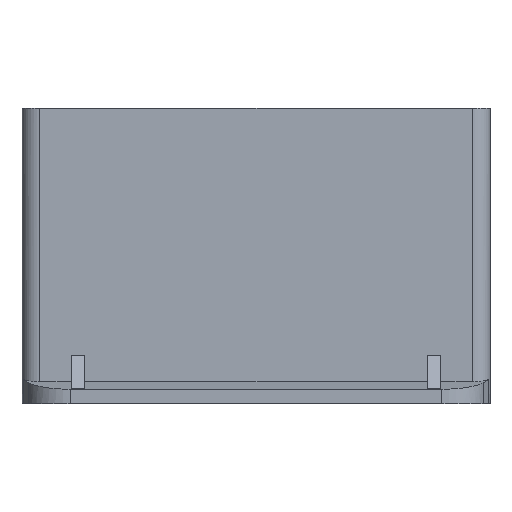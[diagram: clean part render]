
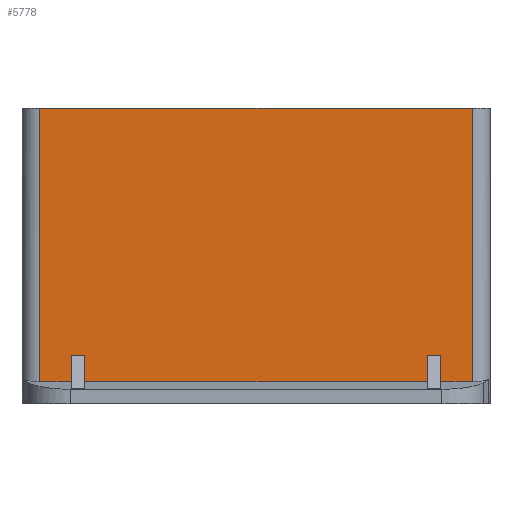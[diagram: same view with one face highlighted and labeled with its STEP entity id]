
A CAD part, front view. The second image highlights one B-rep face of the part: STEP entity #5778.
In plain terms, the highlighted planar face has unit normal (0, -1, 0).
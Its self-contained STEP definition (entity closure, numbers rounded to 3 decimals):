
#34 = CARTESIAN_POINT ( 'NONE',  ( -1.1, -7.6, -18.6 ) ) ;
#102 = VECTOR ( 'NONE', #3552, 1000. ) ;
#106 = ORIENTED_EDGE ( 'NONE', *, *, #4845, .T. ) ;
#255 = DIRECTION ( 'NONE',  ( -1., 0., 0. ) ) ;
#378 = VECTOR ( 'NONE', #5564, 1000. ) ;
#435 = DIRECTION ( 'NONE',  ( 0., 0., -1. ) ) ;
#547 = ORIENTED_EDGE ( 'NONE', *, *, #746, .T. ) ;
#680 = LINE ( 'NONE', #7021, #4722 ) ;
#746 = EDGE_CURVE ( 'NONE', #5959, #3660, #4996, .T. ) ;
#766 = ORIENTED_EDGE ( 'NONE', *, *, #2788, .T. ) ;
#779 = DIRECTION ( 'NONE',  ( 0., 0., -1. ) ) ;
#810 = LINE ( 'NONE', #1203, #6954 ) ;
#812 = LINE ( 'NONE', #4437, #1394 ) ;
#855 = VECTOR ( 'NONE', #6012, 1000. ) ;
#888 = EDGE_CURVE ( 'NONE', #5275, #6322, #3996, .T. ) ;
#908 = ORIENTED_EDGE ( 'NONE', *, *, #2102, .T. ) ;
#1041 = EDGE_CURVE ( 'NONE', #6322, #2286, #680, .T. ) ;
#1073 = DIRECTION ( 'NONE',  ( 1., 0., 0. ) ) ;
#1203 = CARTESIAN_POINT ( 'NONE',  ( -2.3, -7.6, -18.6 ) ) ;
#1394 = VECTOR ( 'NONE', #1470, 1000. ) ;
#1470 = DIRECTION ( 'NONE',  ( 1., 0., 0. ) ) ;
#1509 = ORIENTED_EDGE ( 'NONE', *, *, #4090, .F. ) ;
#1811 = DIRECTION ( 'NONE',  ( 0., 0., -1. ) ) ;
#1815 = EDGE_CURVE ( 'NONE', #3881, #5959, #1835, .T. ) ;
#1835 = LINE ( 'NONE', #7632, #855 ) ;
#2102 = EDGE_CURVE ( 'NONE', #7543, #3881, #3926, .T. ) ;
#2286 = VERTEX_POINT ( 'NONE', #5982 ) ;
#2338 = VECTOR ( 'NONE', #1073, 1000. ) ;
#2596 = VECTOR ( 'NONE', #3900, 1000. ) ;
#2699 = AXIS2_PLACEMENT_3D ( 'NONE', #3389, #4029, #2806 ) ;
#2788 = EDGE_CURVE ( 'NONE', #5853, #6713, #5864, .T. ) ;
#2806 = DIRECTION ( 'NONE',  ( 1., 0., 0. ) ) ;
#2920 = PLANE ( 'NONE',  #2699 ) ;
#3092 = ORIENTED_EDGE ( 'NONE', *, *, #1041, .T. ) ;
#3166 = CARTESIAN_POINT ( 'NONE',  ( 1.05, -7.6, -16.8 ) ) ;
#3322 = CARTESIAN_POINT ( 'NONE',  ( 25.25, -7.6, -16.8 ) ) ;
#3389 = CARTESIAN_POINT ( 'NONE',  ( -2.3, -7.6, -20.1 ) ) ;
#3417 = ORIENTED_EDGE ( 'NONE', *, *, #7304, .F. ) ;
#3455 = ORIENTED_EDGE ( 'NONE', *, *, #4755, .T. ) ;
#3515 = CARTESIAN_POINT ( 'NONE',  ( 1.95, -7.6, -20.1 ) ) ;
#3552 = DIRECTION ( 'NONE',  ( 0., 0., 1. ) ) ;
#3608 = CARTESIAN_POINT ( 'NONE',  ( 28.3, -7.6, 0. ) ) ;
#3633 = CARTESIAN_POINT ( 'NONE',  ( -1.1, -7.6, 0. ) ) ;
#3660 = VERTEX_POINT ( 'NONE', #34 ) ;
#3730 = LINE ( 'NONE', #7388, #378 ) ;
#3809 = CARTESIAN_POINT ( 'NONE',  ( 28.3, -7.6, -18.6 ) ) ;
#3881 = VERTEX_POINT ( 'NONE', #3608 ) ;
#3882 = EDGE_CURVE ( 'NONE', #7543, #2286, #810, .T. ) ;
#3900 = DIRECTION ( 'NONE',  ( 0., 0., -1. ) ) ;
#3926 = LINE ( 'NONE', #5712, #102 ) ;
#3944 = ORIENTED_EDGE ( 'NONE', *, *, #3882, .F. ) ;
#3996 = LINE ( 'NONE', #3322, #2338 ) ;
#4018 = LINE ( 'NONE', #5923, #7699 ) ;
#4029 = DIRECTION ( 'NONE',  ( 0., -1., 0. ) ) ;
#4090 = EDGE_CURVE ( 'NONE', #5275, #5463, #4018, .T. ) ;
#4246 = VECTOR ( 'NONE', #6515, 1000. ) ;
#4298 = VERTEX_POINT ( 'NONE', #4798 ) ;
#4437 = CARTESIAN_POINT ( 'NONE',  ( 32.163, -7.6, -18.6 ) ) ;
#4722 = VECTOR ( 'NONE', #1811, 1000. ) ;
#4755 = EDGE_CURVE ( 'NONE', #7238, #5853, #3730, .T. ) ;
#4783 = EDGE_CURVE ( 'NONE', #6713, #5463, #812, .T. ) ;
#4798 = CARTESIAN_POINT ( 'NONE',  ( 1.05, -7.6, -18.6 ) ) ;
#4845 = EDGE_CURVE ( 'NONE', #3660, #4298, #5747, .T. ) ;
#4996 = LINE ( 'NONE', #5645, #5214 ) ;
#5214 = VECTOR ( 'NONE', #779, 1000. ) ;
#5224 = ORIENTED_EDGE ( 'NONE', *, *, #888, .T. ) ;
#5275 = VERTEX_POINT ( 'NONE', #5461 ) ;
#5349 = DIRECTION ( 'NONE',  ( 0., 0., -1. ) ) ;
#5395 = CARTESIAN_POINT ( 'NONE',  ( 26.15, -7.6, -16.8 ) ) ;
#5417 = CARTESIAN_POINT ( 'NONE',  ( 1.95, -7.6, -18.6 ) ) ;
#5461 = CARTESIAN_POINT ( 'NONE',  ( 25.25, -7.6, -16.8 ) ) ;
#5463 = VERTEX_POINT ( 'NONE', #5863 ) ;
#5564 = DIRECTION ( 'NONE',  ( 1., 0., 0. ) ) ;
#5645 = CARTESIAN_POINT ( 'NONE',  ( -1.1, -7.6, -20.1 ) ) ;
#5678 = EDGE_LOOP ( 'NONE', ( #1509, #5224, #3092, #3944, #908, #6829, #547, #106, #3417, #3455, #766, #6009 ) ) ;
#5712 = CARTESIAN_POINT ( 'NONE',  ( 28.3, -7.6, -20.1 ) ) ;
#5747 = LINE ( 'NONE', #6876, #4246 ) ;
#5778 = ADVANCED_FACE ( 'NONE', ( #7563 ), #2920, .T. ) ;
#5853 = VERTEX_POINT ( 'NONE', #7675 ) ;
#5863 = CARTESIAN_POINT ( 'NONE',  ( 25.25, -7.6, -18.6 ) ) ;
#5864 = LINE ( 'NONE', #3515, #2596 ) ;
#5923 = CARTESIAN_POINT ( 'NONE',  ( 25.25, -7.6, -19.339 ) ) ;
#5959 = VERTEX_POINT ( 'NONE', #3633 ) ;
#5982 = CARTESIAN_POINT ( 'NONE',  ( 26.15, -7.6, -18.6 ) ) ;
#6009 = ORIENTED_EDGE ( 'NONE', *, *, #4783, .T. ) ;
#6012 = DIRECTION ( 'NONE',  ( -1., 0., 0. ) ) ;
#6273 = VECTOR ( 'NONE', #435, 1000. ) ;
#6322 = VERTEX_POINT ( 'NONE', #5395 ) ;
#6515 = DIRECTION ( 'NONE',  ( 1., 0., 0. ) ) ;
#6713 = VERTEX_POINT ( 'NONE', #5417 ) ;
#6829 = ORIENTED_EDGE ( 'NONE', *, *, #1815, .T. ) ;
#6876 = CARTESIAN_POINT ( 'NONE',  ( 32.163, -7.6, -18.6 ) ) ;
#6954 = VECTOR ( 'NONE', #255, 1000. ) ;
#7021 = CARTESIAN_POINT ( 'NONE',  ( 26.15, -7.6, -19.339 ) ) ;
#7044 = CARTESIAN_POINT ( 'NONE',  ( 1.05, -7.6, -20.1 ) ) ;
#7238 = VERTEX_POINT ( 'NONE', #3166 ) ;
#7304 = EDGE_CURVE ( 'NONE', #7238, #4298, #7637, .T. ) ;
#7388 = CARTESIAN_POINT ( 'NONE',  ( -2.3, -7.6, -16.8 ) ) ;
#7543 = VERTEX_POINT ( 'NONE', #3809 ) ;
#7563 = FACE_OUTER_BOUND ( 'NONE', #5678, .T. ) ;
#7632 = CARTESIAN_POINT ( 'NONE',  ( 10.7, -7.6, 0. ) ) ;
#7637 = LINE ( 'NONE', #7044, #6273 ) ;
#7675 = CARTESIAN_POINT ( 'NONE',  ( 1.95, -7.6, -16.8 ) ) ;
#7699 = VECTOR ( 'NONE', #5349, 1000. ) ;
